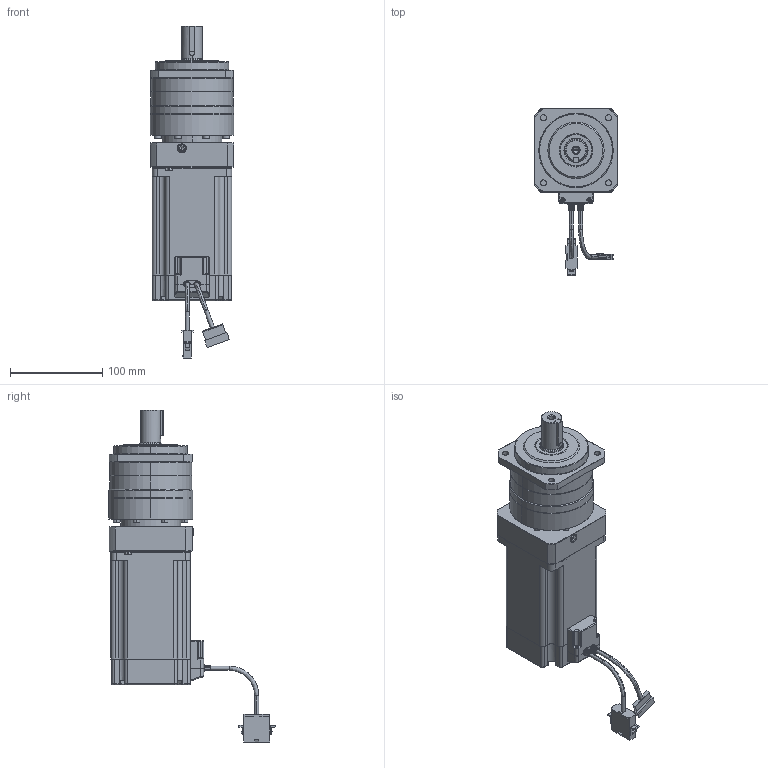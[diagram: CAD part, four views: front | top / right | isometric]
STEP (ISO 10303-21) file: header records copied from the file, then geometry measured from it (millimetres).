
FILE_DESCRIPTION (( 'STEP AP203' ), '1' );
FILE_NAME ('130416 Ezi-SERVO PG-ST-86L-PN3~10.STEP', '2013-04-16T08:32:56', ( '' ), ( '' ), 'SwSTEP 2.0', 'SolidWorks 2012', '' );
FILE_SCHEMA (( 'CONFIG_CONTROL_DESIGN' ));
Products named in the file (15): 130416 Ezi-SERVO PG-ST-86L-PN3~10; ST86 1ST; Main_EzM-86M-assembly___-1; Main_EZSV_86_cable_Cover___-1; Main_EZSV_86_Encoder_Cover___-1; Main_M3-screw6___-1; Main_M3-screw1___-1; Main_M3-screw4___-1; Main_M3-screw2___-1; Main_M3-screw3___-1; Main_M3-screw5___-1; Main_EzM-86M___-1; Main_86_Encoder_Plate___-1; Main_Power Cable 86___-1; Main_connector_e___-1
Assembly tree (14 placements, depth 3):
  130416 Ezi-SERVO PG-ST-86L-PN3~10
    Main_EzM-86M-assembly___-1
      Main_connector_e___-1
      Main_Power Cable 86___-1
      Main_86_Encoder_Plate___-1
      Main_EzM-86M___-1
      Main_M3-screw5___-1
      Main_M3-screw3___-1
      Main_M3-screw2___-1
      Main_M3-screw4___-1
      Main_M3-screw1___-1
      Main_M3-screw6___-1
      Main_EZSV_86_Encoder_Cover___-1
      Main_EZSV_86_cable_Cover___-1
    ST86 1ST
Bounding box: 91 x 180.75 x 360 mm (x, y, z)
Volume: 1542506 mm3; surface area: 189972 mm2
Topology: 13 solids, 13 shells, 1346 faces, 3484 edges, 2202 vertices
Faces by surface type: plane 718, cylinder 415, cone 112, bspline 56, torus 45
Entity records: 47150 total; most frequent: CARTESIAN_POINT 13140, ORIENTED_EDGE 6824, DIRECTION 6640, EDGE_CURVE 3412, AXIS2_PLACEMENT_3D 2344, VERTEX_POINT 2202, VECTOR 1952, LINE 1952
